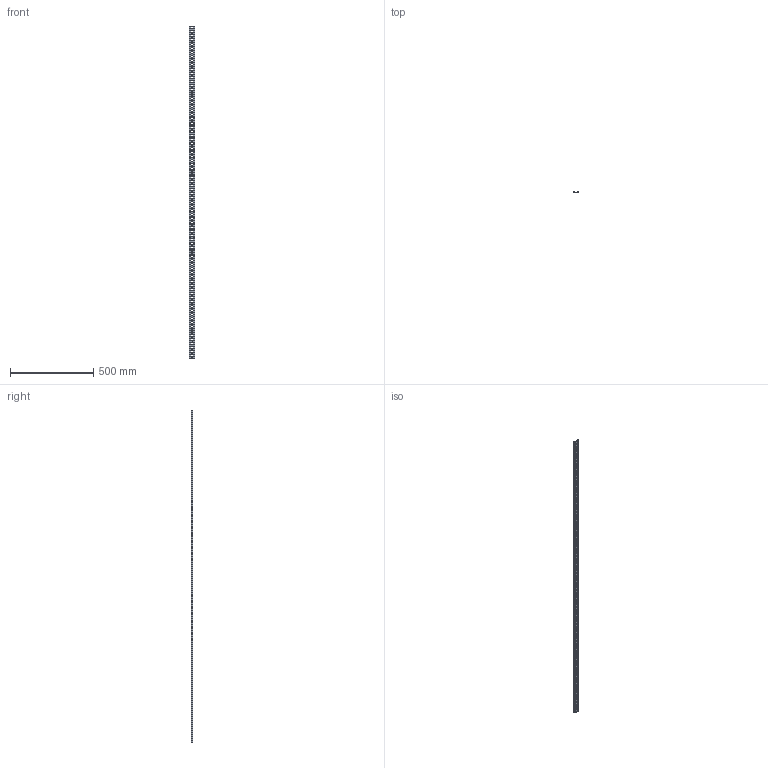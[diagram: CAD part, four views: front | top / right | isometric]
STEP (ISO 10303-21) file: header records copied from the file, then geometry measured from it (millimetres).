
FILE_DESCRIPTION (( 'STEP AP214' ), '1' );
FILE_NAME ('DIN-ðåéêà 2000ìì õ 0,8 ìì.STEP', '2025-10-22T12:58:45', ( '' ), ( '' ), 'SwSTEP 2.0', 'SolidWorks 2018', '' );
FILE_SCHEMA (( 'AUTOMOTIVE_DESIGN' ));
Length unit declared in the file: millimetre
Products named in the file (1): DIN-ðåéêà 2000ìì õ 0,8 ìì
Bounding box: 35.2 x 8.3 x 2000 mm (x, y, z)
Volume: 65828.3 mm3; surface area: 170579.8 mm2
Topology: 1 solids, 1 shells, 439 faces, 1279 edges, 842 vertices
Faces by surface type: cylinder 248, plane 191
Entity records: 15003 total; most frequent: DIRECTION 2655, CARTESIAN_POINT 2561, ORIENTED_EDGE 2558, EDGE_CURVE 1279, AXIS2_PLACEMENT_3D 936, VERTEX_POINT 842, VECTOR 783, LINE 783
